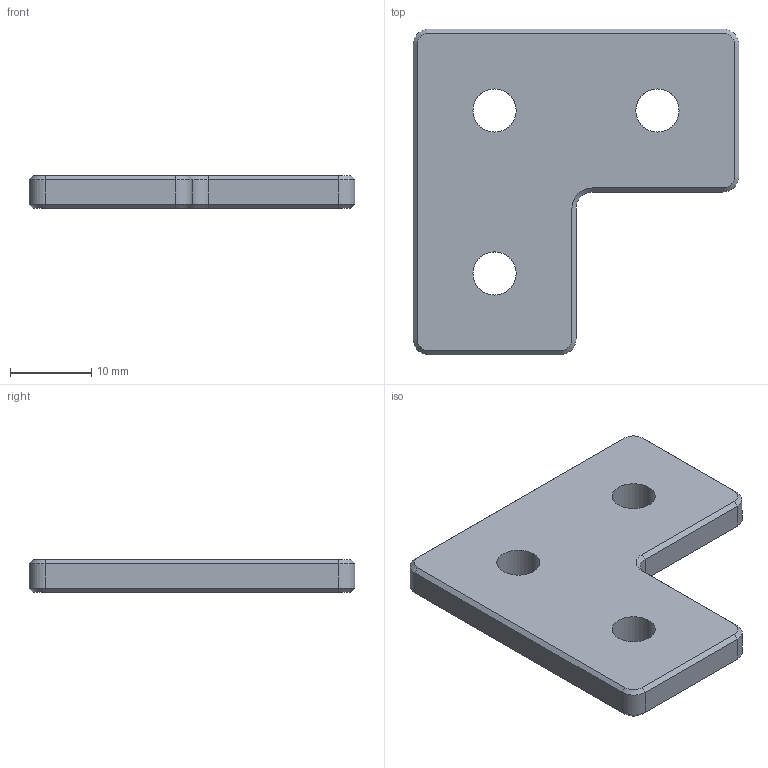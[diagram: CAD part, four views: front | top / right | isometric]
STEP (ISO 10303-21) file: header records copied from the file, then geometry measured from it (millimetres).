
FILE_DESCRIPTION (( 'STEP AP203' ), '1' );
FILE_NAME ('Lbracket.STEP', '2025-03-11T00:33:57', ( '' ), ( '' ), 'SwSTEP 2.0', 'SolidWorks 2024', '' );
FILE_SCHEMA (( 'CONFIG_CONTROL_DESIGN' ));
Length unit declared in the file: millimetre
Products named in the file (1): Lbracket
Bounding box: 40 x 40 x 4 mm (x, y, z)
Volume: 4483.1 mm3; surface area: 2988.6 mm2
Topology: 1 solids, 1 shells, 44 faces, 102 edges, 60 vertices
Faces by surface type: plane 20, cylinder 12, cone 12
Entity records: 1317 total; most frequent: DIRECTION 228, CARTESIAN_POINT 207, ORIENTED_EDGE 204, EDGE_CURVE 102, AXIS2_PLACEMENT_3D 81, LINE 66, VECTOR 66, VERTEX_POINT 60
